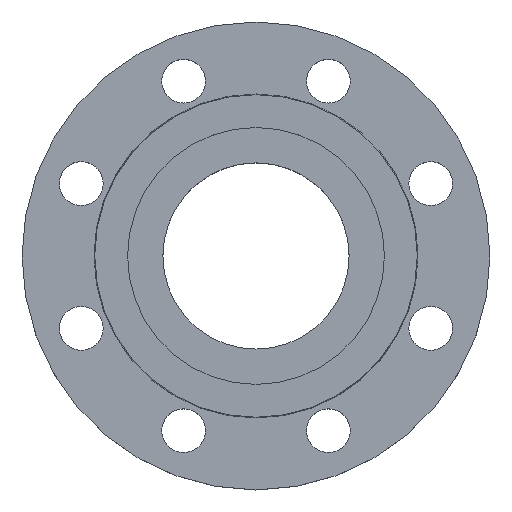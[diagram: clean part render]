
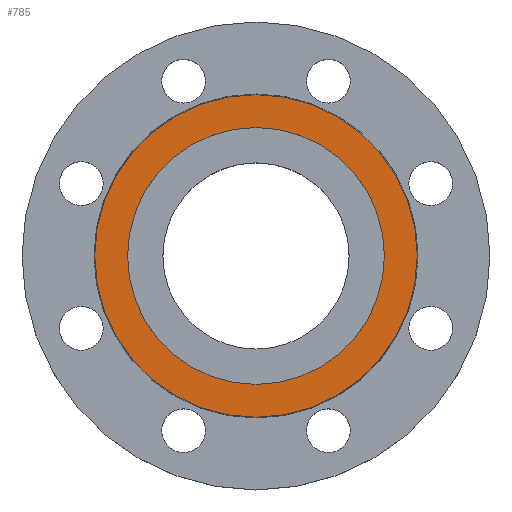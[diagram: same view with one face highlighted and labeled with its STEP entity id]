
A CAD part, top view. The second image highlights one B-rep face of the part: STEP entity #785.
In plain terms, the highlighted planar face has unit normal (0, 0, 1).
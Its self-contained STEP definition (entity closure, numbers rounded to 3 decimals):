
#29 = DIRECTION ( 'NONE',  ( -1., 0., 0. ) ) ;
#30 = DIRECTION ( 'NONE',  ( 0., 0., -1. ) ) ;
#31 = AXIS2_PLACEMENT_3D ( 'NONE', #748, #1028, #366 ) ;
#34 = CARTESIAN_POINT ( 'NONE',  ( 0., 0., 0. ) ) ;
#73 = CIRCLE ( 'NONE', #86, 81. ) ;
#86 = AXIS2_PLACEMENT_3D ( 'NONE', #34, #30, #29 ) ;
#95 = CARTESIAN_POINT ( 'NONE',  ( 81., 0., 0. ) ) ;
#148 = CARTESIAN_POINT ( 'NONE',  ( -64.5, 0., 0. ) ) ;
#222 = DIRECTION ( 'NONE',  ( 1., 0., 0. ) ) ;
#223 = DIRECTION ( 'NONE',  ( 0., 0., 1. ) ) ;
#224 = CARTESIAN_POINT ( 'NONE',  ( 0., 0., 0. ) ) ;
#227 = PLANE ( 'NONE',  #562 ) ;
#228 = FACE_BOUND ( 'NONE', #835, .T. ) ;
#229 = FACE_OUTER_BOUND ( 'NONE', #827, .T. ) ;
#280 = AXIS2_PLACEMENT_3D ( 'NONE', #517, #736, #522 ) ;
#282 = CIRCLE ( 'NONE', #280, 64.5 ) ;
#366 = DIRECTION ( 'NONE',  ( -1., 0., 0. ) ) ;
#379 = DIRECTION ( 'NONE',  ( -1., 0., 0. ) ) ;
#382 = DIRECTION ( 'NONE',  ( 0., 0., -1. ) ) ;
#383 = CARTESIAN_POINT ( 'NONE',  ( 0., 0., 0. ) ) ;
#401 = EDGE_CURVE ( 'NONE', #879, #1071, #282, .T. ) ;
#517 = CARTESIAN_POINT ( 'NONE',  ( 0., 0., 0. ) ) ;
#522 = DIRECTION ( 'NONE',  ( -1., 0., 0. ) ) ;
#562 = AXIS2_PLACEMENT_3D ( 'NONE', #224, #223, #222 ) ;
#588 = CIRCLE ( 'NONE', #31, 64.5 ) ;
#626 = EDGE_CURVE ( 'NONE', #920, #1090, #955, .T. ) ;
#642 = AXIS2_PLACEMENT_3D ( 'NONE', #383, #382, #379 ) ;
#694 = CARTESIAN_POINT ( 'NONE',  ( 64.5, 0., 0. ) ) ;
#736 = DIRECTION ( 'NONE',  ( 0., 0., -1. ) ) ;
#748 = CARTESIAN_POINT ( 'NONE',  ( 0., 0., 0. ) ) ;
#785 = ADVANCED_FACE ( 'NONE', ( #229, #228 ), #227, .T. ) ;
#827 = EDGE_LOOP ( 'NONE', ( #960, #961 ) ) ;
#835 = EDGE_LOOP ( 'NONE', ( #963, #964 ) ) ;
#879 = VERTEX_POINT ( 'NONE', #148 ) ;
#920 = VERTEX_POINT ( 'NONE', #95 ) ;
#938 = CARTESIAN_POINT ( 'NONE',  ( -81., 0., 0. ) ) ;
#955 = CIRCLE ( 'NONE', #642, 81. ) ;
#960 = ORIENTED_EDGE ( 'NONE', *, *, #984, .F. ) ;
#961 = ORIENTED_EDGE ( 'NONE', *, *, #626, .F. ) ;
#963 = ORIENTED_EDGE ( 'NONE', *, *, #401, .T. ) ;
#964 = ORIENTED_EDGE ( 'NONE', *, *, #1082, .T. ) ;
#984 = EDGE_CURVE ( 'NONE', #1090, #920, #73, .T. ) ;
#1028 = DIRECTION ( 'NONE',  ( 0., 0., -1. ) ) ;
#1071 = VERTEX_POINT ( 'NONE', #694 ) ;
#1082 = EDGE_CURVE ( 'NONE', #1071, #879, #588, .T. ) ;
#1090 = VERTEX_POINT ( 'NONE', #938 ) ;
